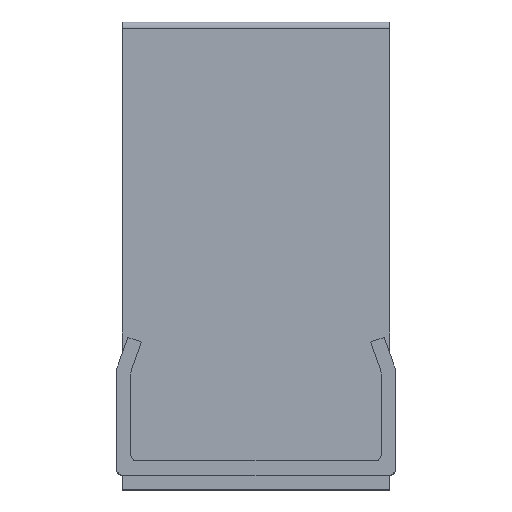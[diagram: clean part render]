
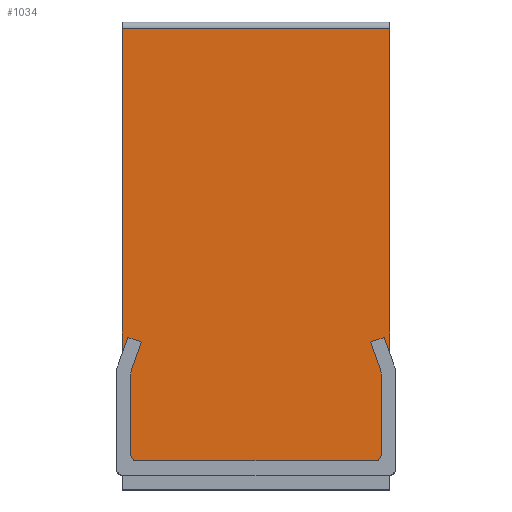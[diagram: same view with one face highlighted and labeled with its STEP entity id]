
A CAD part, top view. The second image highlights one B-rep face of the part: STEP entity #1034.
In plain terms, the highlighted planar face has unit normal (0, 0, 1).
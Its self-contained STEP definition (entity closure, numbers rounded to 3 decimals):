
#22 = LINE ( 'NONE', #1427, #1946 ) ;
#24 = CARTESIAN_POINT ( 'NONE',  ( -20.721, 20., 0. ) ) ;
#31 = VERTEX_POINT ( 'NONE', #975 ) ;
#41 = DIRECTION ( 'NONE',  ( 0., 0., 1. ) ) ;
#55 = VECTOR ( 'NONE', #205, 1000. ) ;
#74 = DIRECTION ( 'NONE',  ( -0.941, -0.338, 0. ) ) ;
#77 = CIRCLE ( 'NONE', #532, 1. ) ;
#81 = ORIENTED_EDGE ( 'NONE', *, *, #629, .F. ) ;
#84 = EDGE_CURVE ( 'NONE', #751, #542, #77, .T. ) ;
#102 = CIRCLE ( 'NONE', #303, 4. ) ;
#118 = CARTESIAN_POINT ( 'NONE',  ( 16.25, 13.804, 0. ) ) ;
#131 = ORIENTED_EDGE ( 'NONE', *, *, #156, .F. ) ;
#146 = FACE_OUTER_BOUND ( 'NONE', #347, .T. ) ;
#151 = ORIENTED_EDGE ( 'NONE', *, *, #188, .F. ) ;
#156 = EDGE_CURVE ( 'NONE', #1934, #1040, #1436, .T. ) ;
#174 = EDGE_CURVE ( 'NONE', #757, #659, #102, .T. ) ;
#188 = EDGE_CURVE ( 'NONE', #1584, #31, #1634, .T. ) ;
#189 = CARTESIAN_POINT ( 'NONE',  ( 19.25, 0., 0. ) ) ;
#205 = DIRECTION ( 'NONE',  ( 0.338, -0.941, 0. ) ) ;
#208 = CARTESIAN_POINT ( 'NONE',  ( -20.721, 20., 0. ) ) ;
#218 = CARTESIAN_POINT ( 'NONE',  ( 20.721, 20., 0. ) ) ;
#237 = VERTEX_POINT ( 'NONE', #1606 ) ;
#303 = AXIS2_PLACEMENT_3D ( 'NONE', #964, #41, #978 ) ;
#317 = VECTOR ( 'NONE', #1988, 1000. ) ;
#347 = EDGE_LOOP ( 'NONE', ( #1253, #459, #151, #1598, #131, #490, #1449, #1542, #1233, #932, #1129, #1272, #81, #1247, #1687, #1251 ) ) ;
#382 = CARTESIAN_POINT ( 'NONE',  ( 21.6, 70.1, 0. ) ) ;
#385 = LINE ( 'NONE', #382, #1828 ) ;
#423 = CARTESIAN_POINT ( 'NONE',  ( -22.55, 14.9, 0. ) ) ;
#424 = DIRECTION ( 'NONE',  ( 0., 0., 1. ) ) ;
#428 = DIRECTION ( 'NONE',  ( -0.338, -0.941, 0. ) ) ;
#441 = CARTESIAN_POINT ( 'NONE',  ( -20.25, 1., 0. ) ) ;
#446 = DIRECTION ( 'NONE',  ( 0.338, 0.941, 0. ) ) ;
#452 = VECTOR ( 'NONE', #428, 1000. ) ;
#459 = ORIENTED_EDGE ( 'NONE', *, *, #620, .T. ) ;
#486 = EDGE_CURVE ( 'NONE', #237, #830, #1002, .T. ) ;
#490 = ORIENTED_EDGE ( 'NONE', *, *, #1995, .F. ) ;
#498 = CARTESIAN_POINT ( 'NONE',  ( -19.25, 1., 0. ) ) ;
#502 = CARTESIAN_POINT ( 'NONE',  ( -21.6, 17.549, 0. ) ) ;
#532 = AXIS2_PLACEMENT_3D ( 'NONE', #498, #611, #1600 ) ;
#542 = VERTEX_POINT ( 'NONE', #441 ) ;
#551 = VECTOR ( 'NONE', #446, 1000. ) ;
#611 = DIRECTION ( 'NONE',  ( 0., 0., -1. ) ) ;
#618 = CARTESIAN_POINT ( 'NONE',  ( -19.25, 0., 0. ) ) ;
#620 = EDGE_CURVE ( 'NONE', #1390, #31, #1125, .T. ) ;
#623 = LINE ( 'NONE', #1649, #2018 ) ;
#629 = EDGE_CURVE ( 'NONE', #542, #659, #1632, .T. ) ;
#650 = VECTOR ( 'NONE', #1149, 1000. ) ;
#659 = VERTEX_POINT ( 'NONE', #913 ) ;
#721 = CARTESIAN_POINT ( 'NONE',  ( 20.25, 1., 0. ) ) ;
#732 = DIRECTION ( 'NONE',  ( -1., 0., 0. ) ) ;
#734 = EDGE_CURVE ( 'NONE', #1765, #751, #1700, .T. ) ;
#748 = CARTESIAN_POINT ( 'NONE',  ( -18.556, 19.223, 0. ) ) ;
#751 = VERTEX_POINT ( 'NONE', #618 ) ;
#757 = VERTEX_POINT ( 'NONE', #1089 ) ;
#774 = EDGE_CURVE ( 'NONE', #1133, #1765, #1150, .T. ) ;
#799 = CARTESIAN_POINT ( 'NONE',  ( 18.556, 19.223, 0. ) ) ;
#818 = CARTESIAN_POINT ( 'NONE',  ( 22.55, 14.9, 0. ) ) ;
#825 = DIRECTION ( 'NONE',  ( -1., 0., 0. ) ) ;
#830 = VERTEX_POINT ( 'NONE', #24 ) ;
#850 = DIRECTION ( 'NONE',  ( -1., 0., 0. ) ) ;
#913 = CARTESIAN_POINT ( 'NONE',  ( -20.25, 13.804, 0. ) ) ;
#917 = EDGE_CURVE ( 'NONE', #1040, #1584, #1923, .T. ) ;
#932 = ORIENTED_EDGE ( 'NONE', *, *, #486, .F. ) ;
#948 = EDGE_CURVE ( 'NONE', #1439, #1091, #385, .T. ) ;
#964 = CARTESIAN_POINT ( 'NONE',  ( -16.25, 13.804, 0. ) ) ;
#975 = CARTESIAN_POINT ( 'NONE',  ( 20.015, 15.155, 0. ) ) ;
#978 = DIRECTION ( 'NONE',  ( -1., 0., 0. ) ) ;
#981 = DIRECTION ( 'NONE',  ( 0., -1., 0. ) ) ;
#986 = PLANE ( 'NONE',  #1922 ) ;
#1002 = LINE ( 'NONE', #208, #650 ) ;
#1034 = ADVANCED_FACE ( 'NONE', ( #146 ), #986, .F. ) ;
#1040 = VERTEX_POINT ( 'NONE', #218 ) ;
#1089 = CARTESIAN_POINT ( 'NONE',  ( -20.015, 15.155, 0. ) ) ;
#1091 = VERTEX_POINT ( 'NONE', #1665 ) ;
#1116 = DIRECTION ( 'NONE',  ( -1., 0., 0. ) ) ;
#1125 = CIRCLE ( 'NONE', #1279, 4. ) ;
#1127 = VECTOR ( 'NONE', #1276, 1000. ) ;
#1128 = EDGE_CURVE ( 'NONE', #1091, #1794, #623, .T. ) ;
#1129 = ORIENTED_EDGE ( 'NONE', *, *, #1547, .F. ) ;
#1133 = VERTEX_POINT ( 'NONE', #721 ) ;
#1149 = DIRECTION ( 'NONE',  ( -0.941, 0.338, 0. ) ) ;
#1150 = CIRCLE ( 'NONE', #1344, 1. ) ;
#1169 = LINE ( 'NONE', #1510, #1526 ) ;
#1191 = EDGE_CURVE ( 'NONE', #830, #1794, #1459, .T. ) ;
#1192 = LINE ( 'NONE', #748, #551 ) ;
#1233 = ORIENTED_EDGE ( 'NONE', *, *, #1191, .F. ) ;
#1247 = ORIENTED_EDGE ( 'NONE', *, *, #84, .F. ) ;
#1251 = ORIENTED_EDGE ( 'NONE', *, *, #774, .F. ) ;
#1253 = ORIENTED_EDGE ( 'NONE', *, *, #1706, .F. ) ;
#1272 = ORIENTED_EDGE ( 'NONE', *, *, #174, .T. ) ;
#1276 = DIRECTION ( 'NONE',  ( -0.338, 0.941, 0. ) ) ;
#1279 = AXIS2_PLACEMENT_3D ( 'NONE', #118, #424, #732 ) ;
#1317 = CARTESIAN_POINT ( 'NONE',  ( 20.721, 20., 0. ) ) ;
#1344 = AXIS2_PLACEMENT_3D ( 'NONE', #1441, #1737, #1116 ) ;
#1354 = CARTESIAN_POINT ( 'NONE',  ( -20.25, 14.5, 0. ) ) ;
#1390 = VERTEX_POINT ( 'NONE', #1570 ) ;
#1427 = CARTESIAN_POINT ( 'NONE',  ( 20.25, 1., 0. ) ) ;
#1436 = LINE ( 'NONE', #818, #1127 ) ;
#1439 = VERTEX_POINT ( 'NONE', #1709 ) ;
#1441 = CARTESIAN_POINT ( 'NONE',  ( 19.25, 1., 0. ) ) ;
#1449 = ORIENTED_EDGE ( 'NONE', *, *, #948, .T. ) ;
#1459 = LINE ( 'NONE', #423, #452 ) ;
#1508 = VECTOR ( 'NONE', #74, 1000. ) ;
#1510 = CARTESIAN_POINT ( 'NONE',  ( 21.6, 70.1, 0. ) ) ;
#1526 = VECTOR ( 'NONE', #1860, 1000. ) ;
#1542 = ORIENTED_EDGE ( 'NONE', *, *, #1128, .T. ) ;
#1547 = EDGE_CURVE ( 'NONE', #757, #237, #1192, .T. ) ;
#1562 = CARTESIAN_POINT ( 'NONE',  ( 18.556, 19.223, 0. ) ) ;
#1567 = DIRECTION ( 'NONE',  ( -1., 0., 0. ) ) ;
#1570 = CARTESIAN_POINT ( 'NONE',  ( 20.25, 13.804, 0. ) ) ;
#1584 = VERTEX_POINT ( 'NONE', #1562 ) ;
#1598 = ORIENTED_EDGE ( 'NONE', *, *, #917, .F. ) ;
#1600 = DIRECTION ( 'NONE',  ( -1., 0., 0. ) ) ;
#1606 = CARTESIAN_POINT ( 'NONE',  ( -18.556, 19.223, 0. ) ) ;
#1613 = DIRECTION ( 'NONE',  ( 0., 0., -1. ) ) ;
#1630 = CARTESIAN_POINT ( 'NONE',  ( 21.6, 70.1, 0. ) ) ;
#1632 = LINE ( 'NONE', #1354, #317 ) ;
#1634 = LINE ( 'NONE', #799, #55 ) ;
#1635 = CARTESIAN_POINT ( 'NONE',  ( 21.6, 17.549, 0. ) ) ;
#1649 = CARTESIAN_POINT ( 'NONE',  ( -21.6, 70.1, 0. ) ) ;
#1665 = CARTESIAN_POINT ( 'NONE',  ( -21.6, 70.1, 0. ) ) ;
#1687 = ORIENTED_EDGE ( 'NONE', *, *, #734, .F. ) ;
#1700 = LINE ( 'NONE', #1858, #1972 ) ;
#1706 = EDGE_CURVE ( 'NONE', #1390, #1133, #22, .T. ) ;
#1709 = CARTESIAN_POINT ( 'NONE',  ( 21.6, 70.1, 0. ) ) ;
#1737 = DIRECTION ( 'NONE',  ( 0., 0., -1. ) ) ;
#1765 = VERTEX_POINT ( 'NONE', #189 ) ;
#1794 = VERTEX_POINT ( 'NONE', #502 ) ;
#1810 = DIRECTION ( 'NONE',  ( 0., -1., 0. ) ) ;
#1828 = VECTOR ( 'NONE', #850, 1000. ) ;
#1858 = CARTESIAN_POINT ( 'NONE',  ( -19.25, 0., 0. ) ) ;
#1860 = DIRECTION ( 'NONE',  ( 0., -1., 0. ) ) ;
#1922 = AXIS2_PLACEMENT_3D ( 'NONE', #1630, #1613, #825 ) ;
#1923 = LINE ( 'NONE', #1317, #1508 ) ;
#1934 = VERTEX_POINT ( 'NONE', #1635 ) ;
#1946 = VECTOR ( 'NONE', #981, 1000. ) ;
#1972 = VECTOR ( 'NONE', #1567, 1000. ) ;
#1988 = DIRECTION ( 'NONE',  ( 0., 1., 0. ) ) ;
#1995 = EDGE_CURVE ( 'NONE', #1439, #1934, #1169, .T. ) ;
#2018 = VECTOR ( 'NONE', #1810, 1000. ) ;
